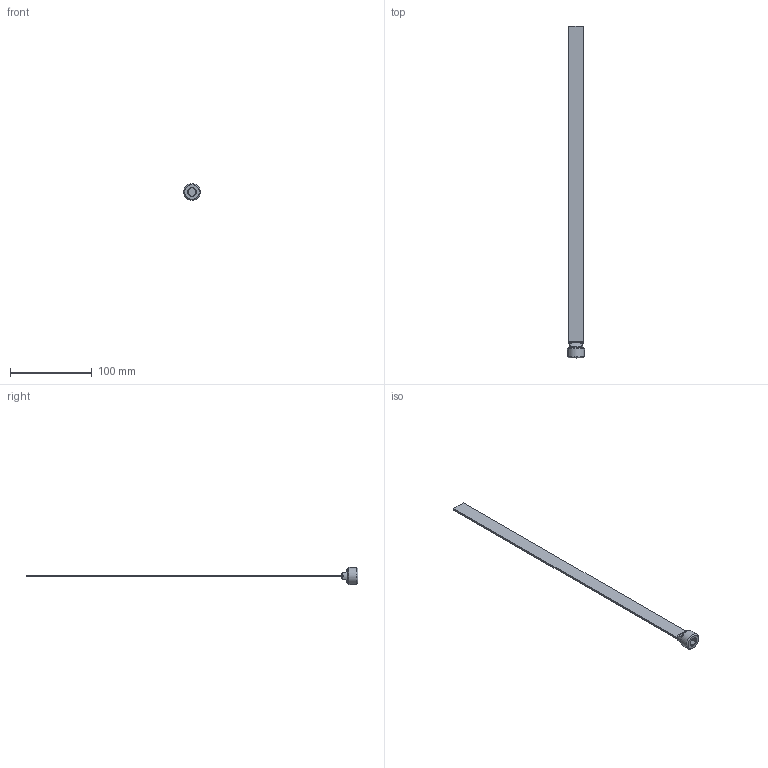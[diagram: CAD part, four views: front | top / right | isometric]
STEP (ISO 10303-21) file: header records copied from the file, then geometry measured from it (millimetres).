
FILE_DESCRIPTION(/* description */ (''),/* implementation_level */ '2;1');
FILE_NAME(/* name */ 'C:/Users/drich/Desktop/SB12X16 v4.step',/* time_stamp */ '2019-12-29T15:50:26-06:00',/* author */ (''),/* organization */ (''),/* preprocessor_version */ 'ST-DEVELOPER v18',/* originating_system */ 'Autodesk Translation Framework v8.12.0.6',/* authorisation */ '');
FILE_SCHEMA (('AUTOMOTIVE_DESIGN { 1 0 10303 214 3 1 1 }'));
Length unit declared in the file: inch
Products named in the file (1): SB12X16
Bounding box: 20.81 x 406.4 x 20.81 mm (x, y, z)
Volume: 20221.7 mm3; surface area: 17220.5 mm2
Topology: 1 solids, 1 shells, 35 faces, 89 edges, 58 vertices
Faces by surface type: plane 18, cylinder 6, torus 6, cone 3, bspline 2
Full cylindrical faces by diameter (mm): 17.018 x1, 20.813 x1
Entity records: 1490 total; most frequent: CARTESIAN_POINT 630, ORIENTED_EDGE 178, DIRECTION 161, EDGE_CURVE 89, AXIS2_PLACEMENT_3D 60, VERTEX_POINT 58, LINE 41, VECTOR 41
